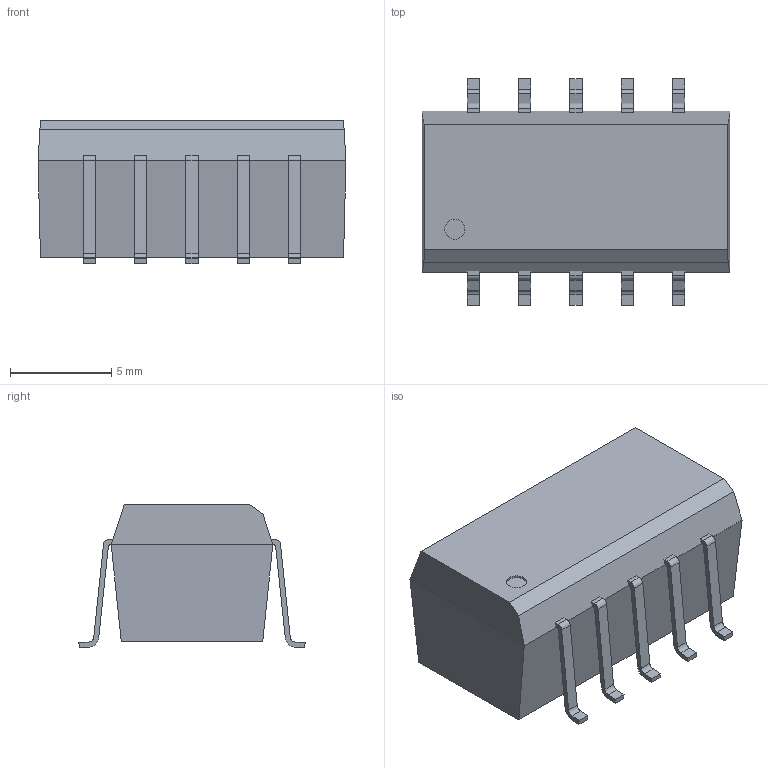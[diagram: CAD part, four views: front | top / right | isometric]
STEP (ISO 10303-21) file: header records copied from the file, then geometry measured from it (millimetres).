
FILE_DESCRIPTION (( 'STEP AP214' ), '1' );
FILE_NAME ('tsm-dual-5-and 12Vin.STEP', '2017-10-24T12:04:34', ( '' ), ( '' ), 'SwSTEP 2.0', 'SolidWorks 2013', '' );
FILE_SCHEMA (( 'AUTOMOTIVE_DESIGN' ));
Length unit declared in the file: millimetre
Products named in the file (1): tsm-dual-5-and 12Vin
Bounding box: 15.24 x 11.2 x 7.1 mm (x, y, z)
Volume: 773.9 mm3; surface area: 615.9 mm2
Topology: 1 solids, 1 shells, 144 faces, 399 edges, 258 vertices
Faces by surface type: plane 102, cylinder 42
Entity records: 6173 total; most frequent: CARTESIAN_POINT 802, ORIENTED_EDGE 798, DIRECTION 773, EDGE_CURVE 399, LINE 315, VECTOR 315, VERTEX_POINT 258, AXIS2_PLACEMENT_3D 229
